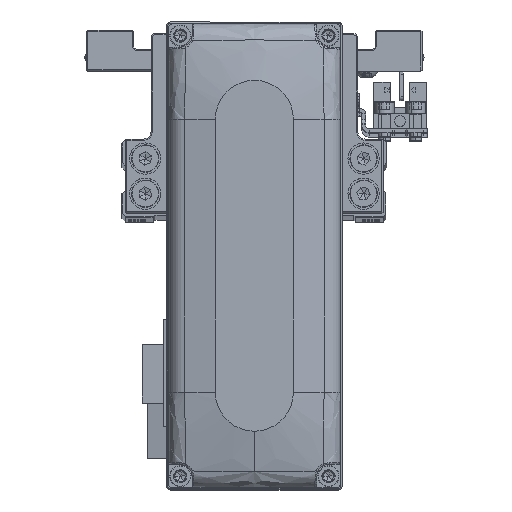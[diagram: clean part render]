
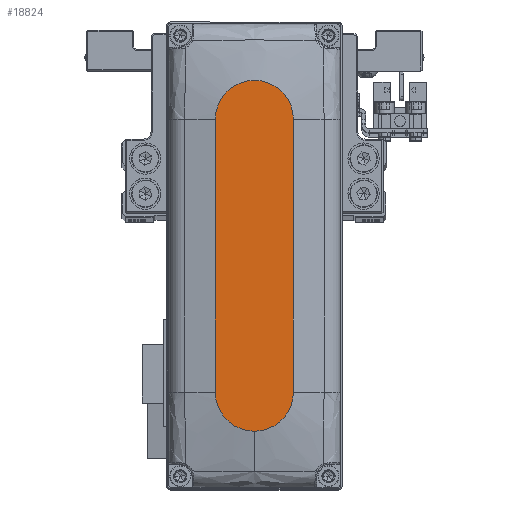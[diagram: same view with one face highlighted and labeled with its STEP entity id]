
A CAD part, top view. The second image highlights one B-rep face of the part: STEP entity #18824.
In plain terms, the highlighted planar face has unit normal (0, 0, 1).
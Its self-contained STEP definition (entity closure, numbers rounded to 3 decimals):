
#180 = VERTEX_POINT ( 'NONE', #7452 ) ;
#2028 = DIRECTION ( 'NONE',  ( 1., 0., 0. ) ) ;
#2900 = EDGE_LOOP ( 'NONE', ( #27787, #27066, #7643, #9294, #7326 ) ) ;
#3234 = LINE ( 'NONE', #15811, #40490 ) ;
#3397 = DIRECTION ( 'NONE',  ( 1., 0., 0. ) ) ;
#3508 = DIRECTION ( 'NONE',  ( 0., 0., 1. ) ) ;
#4130 = CARTESIAN_POINT ( 'NONE',  ( -35., 0., 28. ) ) ;
#5439 = VERTEX_POINT ( 'NONE', #38516 ) ;
#6576 = FACE_OUTER_BOUND ( 'NONE', #2900, .T. ) ;
#6962 = EDGE_CURVE ( 'NONE', #39179, #5439, #8698, .T. ) ;
#7326 = ORIENTED_EDGE ( 'NONE', *, *, #6962, .T. ) ;
#7452 = CARTESIAN_POINT ( 'NONE',  ( 35., -10., 28. ) ) ;
#7643 = ORIENTED_EDGE ( 'NONE', *, *, #28286, .T. ) ;
#7815 = LINE ( 'NONE', #20423, #38736 ) ;
#8698 = CIRCLE ( 'NONE', #31726, 10. ) ;
#9294 = ORIENTED_EDGE ( 'NONE', *, *, #17998, .T. ) ;
#9383 = VERTEX_POINT ( 'NONE', #27048 ) ;
#10958 = EDGE_CURVE ( 'NONE', #40706, #9383, #30320, .T. ) ;
#12540 = AXIS2_PLACEMENT_3D ( 'NONE', #4130, #16702, #29274 ) ;
#15094 = CARTESIAN_POINT ( 'NONE',  ( 45., 0., 28. ) ) ;
#15811 = CARTESIAN_POINT ( 'NONE',  ( -35., 10., 28. ) ) ;
#16086 = DIRECTION ( 'NONE',  ( 1., 0., 0. ) ) ;
#16263 = AXIS2_PLACEMENT_3D ( 'NONE', #19082, #31613, #3397 ) ;
#16436 = EDGE_CURVE ( 'NONE', #5439, #40706, #3234, .T. ) ;
#16702 = DIRECTION ( 'NONE',  ( 0., 0., 1. ) ) ;
#17709 = CARTESIAN_POINT ( 'NONE',  ( 35., 0., 28. ) ) ;
#17998 = EDGE_CURVE ( 'NONE', #180, #39179, #34035, .T. ) ;
#18824 = ADVANCED_FACE ( 'NONE', ( #6576 ), #19197, .T. ) ;
#19082 = CARTESIAN_POINT ( 'NONE',  ( 35., 0., 28. ) ) ;
#19197 = PLANE ( 'NONE',  #32195 ) ;
#20423 = CARTESIAN_POINT ( 'NONE',  ( -35., -10., 28. ) ) ;
#27048 = CARTESIAN_POINT ( 'NONE',  ( -35., -10., 28. ) ) ;
#27066 = ORIENTED_EDGE ( 'NONE', *, *, #10958, .T. ) ;
#27787 = ORIENTED_EDGE ( 'NONE', *, *, #16436, .T. ) ;
#28286 = EDGE_CURVE ( 'NONE', #9383, #180, #7815, .T. ) ;
#28413 = DIRECTION ( 'NONE',  ( -1., 0., 0. ) ) ;
#29274 = DIRECTION ( 'NONE',  ( 1., 0., 0. ) ) ;
#30257 = DIRECTION ( 'NONE',  ( 0., 0., 1. ) ) ;
#30320 = CIRCLE ( 'NONE', #12540, 10. ) ;
#31613 = DIRECTION ( 'NONE',  ( 0., 0., 1. ) ) ;
#31726 = AXIS2_PLACEMENT_3D ( 'NONE', #17709, #30257, #2028 ) ;
#31728 = CARTESIAN_POINT ( 'NONE',  ( 0., 0., 28. ) ) ;
#32195 = AXIS2_PLACEMENT_3D ( 'NONE', #31728, #3508, #16086 ) ;
#32966 = DIRECTION ( 'NONE',  ( 1., 0., 0. ) ) ;
#34035 = CIRCLE ( 'NONE', #16263, 10. ) ;
#38516 = CARTESIAN_POINT ( 'NONE',  ( 35., 10., 28. ) ) ;
#38736 = VECTOR ( 'NONE', #32966, 1000. ) ;
#38762 = CARTESIAN_POINT ( 'NONE',  ( -35., 10., 28. ) ) ;
#39179 = VERTEX_POINT ( 'NONE', #15094 ) ;
#40490 = VECTOR ( 'NONE', #28413, 1000. ) ;
#40706 = VERTEX_POINT ( 'NONE', #38762 ) ;
